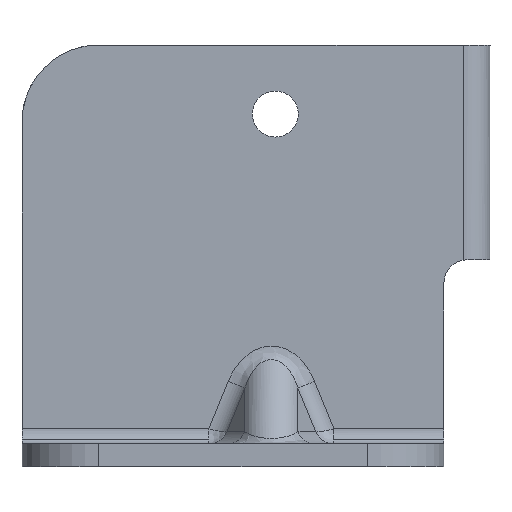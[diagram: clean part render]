
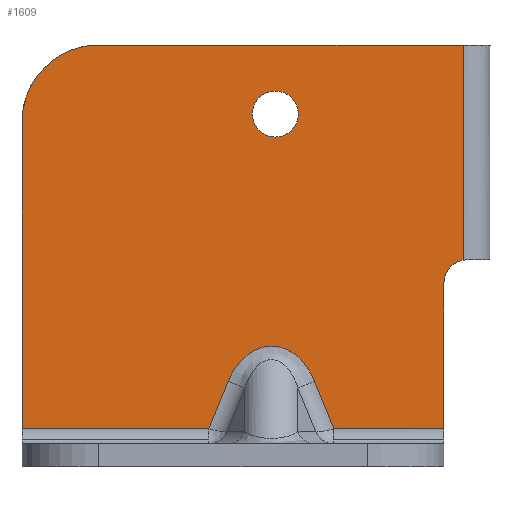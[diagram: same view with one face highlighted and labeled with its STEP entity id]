
A CAD part, left-side view. The second image highlights one B-rep face of the part: STEP entity #1609.
In plain terms, the highlighted planar face has unit normal (-1, 0, 0).
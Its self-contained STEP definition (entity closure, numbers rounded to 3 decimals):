
#1519=AXIS2_PLACEMENT_3D('Plane Axis2P3D',#1516,#1517,#1518) ;
#1528=AXIS2_PLACEMENT_3D('Circle Axis2P3D',#1526,#1527,$) ;
#1593=AXIS2_PLACEMENT_3D('Circle Axis2P3D',#1591,#1592,$) ;
#1602=AXIS2_PLACEMENT_3D('Circle Axis2P3D',#1600,#1601,$) ;
#332=CARTESIAN_POINT('Vertex',(1031.999,-706.333,25.)) ;
#1100=CARTESIAN_POINT('Vertex',(1031.999,-736.979,44.)) ;
#1103=CARTESIAN_POINT('Line Origine',(1031.999,-736.979,34.5)) ;
#1107=CARTESIAN_POINT('Vertex',(1031.999,-736.979,25.)) ;
#1225=CARTESIAN_POINT('Vertex',(1031.999,-722.626,25.)) ;
#1358=CARTESIAN_POINT('Vertex',(1031.999,-708.85,31.167)) ;
#1361=CARTESIAN_POINT('Line Origine',(1031.999,-716.539,50.)) ;
#1471=CARTESIAN_POINT('Vertex',(1031.999,-720.109,31.167)) ;
#1475=CARTESIAN_POINT('Control Point',(1031.999,-708.85,31.167)) ;
#1476=CARTESIAN_POINT('Control Point',(1031.999,-709.165,31.938)) ;
#1477=CARTESIAN_POINT('Control Point',(1031.999,-709.558,32.685)) ;
#1478=CARTESIAN_POINT('Control Point',(1031.999,-710.035,33.393)) ;
#1479=CARTESIAN_POINT('Control Point',(1031.999,-711.152,34.648)) ;
#1480=CARTESIAN_POINT('Control Point',(1031.999,-712.657,35.5)) ;
#1481=CARTESIAN_POINT('Control Point',(1031.999,-713.483,35.779)) ;
#1482=CARTESIAN_POINT('Control Point',(1031.999,-715.272,35.899)) ;
#1483=CARTESIAN_POINT('Control Point',(1031.999,-716.908,35.227)) ;
#1484=CARTESIAN_POINT('Control Point',(1031.999,-717.633,34.714)) ;
#1485=CARTESIAN_POINT('Control Point',(1031.999,-718.652,33.738)) ;
#1486=CARTESIAN_POINT('Control Point',(1031.999,-719.415,32.597)) ;
#1487=CARTESIAN_POINT('Control Point',(1031.999,-719.679,32.133)) ;
#1488=CARTESIAN_POINT('Control Point',(1031.999,-719.909,31.655)) ;
#1489=CARTESIAN_POINT('Control Point',(1031.999,-720.109,31.167)) ;
#1504=CARTESIAN_POINT('Control Point',(1031.999,-720.109,31.167)) ;
#1505=CARTESIAN_POINT('Control Point',(1031.999,-720.948,29.111)) ;
#1506=CARTESIAN_POINT('Control Point',(1031.999,-721.787,27.055)) ;
#1507=CARTESIAN_POINT('Control Point',(1031.999,-722.626,25.)) ;
#1516=CARTESIAN_POINT('Axis2P3D Location',(1031.999,-736.979,20.)) ;
#1521=CARTESIAN_POINT('Line Origine',(1031.999,-729.803,25.)) ;
#1526=CARTESIAN_POINT('Axis2P3D Location',(1031.999,-739.979,44.)) ;
#1530=CARTESIAN_POINT('Vertex',(1031.999,-739.479,46.958)) ;
#1533=CARTESIAN_POINT('Line Origine',(1031.999,-739.479,60.979)) ;
#1537=CARTESIAN_POINT('Vertex',(1031.999,-739.479,75.)) ;
#1540=CARTESIAN_POINT('Line Origine',(1031.999,-715.729,75.)) ;
#1544=CARTESIAN_POINT('Vertex',(1031.999,-691.979,75.)) ;
#1548=CARTESIAN_POINT('Control Point',(1031.999,-681.979,65.)) ;
#1549=CARTESIAN_POINT('Control Point',(1031.999,-681.979,65.929)) ;
#1550=CARTESIAN_POINT('Control Point',(1031.999,-682.087,66.858)) ;
#1551=CARTESIAN_POINT('Control Point',(1031.999,-682.303,67.771)) ;
#1552=CARTESIAN_POINT('Control Point',(1031.999,-682.943,69.529)) ;
#1553=CARTESIAN_POINT('Control Point',(1031.999,-683.969,71.094)) ;
#1554=CARTESIAN_POINT('Control Point',(1031.999,-684.572,71.814)) ;
#1555=CARTESIAN_POINT('Control Point',(1031.999,-685.932,73.099)) ;
#1556=CARTESIAN_POINT('Control Point',(1031.999,-687.55,74.038)) ;
#1557=CARTESIAN_POINT('Control Point',(1031.999,-688.411,74.411)) ;
#1558=CARTESIAN_POINT('Control Point',(1031.999,-689.647,74.783)) ;
#1559=CARTESIAN_POINT('Control Point',(1031.999,-690.919,74.953)) ;
#1560=CARTESIAN_POINT('Control Point',(1031.999,-691.273,74.984)) ;
#1561=CARTESIAN_POINT('Control Point',(1031.999,-691.626,75.)) ;
#1562=CARTESIAN_POINT('Control Point',(1031.999,-691.979,75.)) ;
#1563=CARTESIAN_POINT('Vertex',(1031.999,-681.979,65.)) ;
#1566=CARTESIAN_POINT('Line Origine',(1031.999,-681.979,45.)) ;
#1570=CARTESIAN_POINT('Vertex',(1031.999,-681.979,25.)) ;
#1573=CARTESIAN_POINT('Line Origine',(1031.999,-694.156,25.)) ;
#1591=CARTESIAN_POINT('Axis2P3D Location',(1031.999,-714.999,66.)) ;
#1595=CARTESIAN_POINT('Vertex',(1031.999,-711.999,66.)) ;
#1597=CARTESIAN_POINT('Vertex',(1031.999,-717.999,66.)) ;
#1600=CARTESIAN_POINT('Axis2P3D Location',(1031.999,-714.999,66.)) ;
#1104=DIRECTION('Vector Direction',(0.,0.,-1.)) ;
#1362=DIRECTION('Vector Direction',(0.,0.378,-0.926)) ;
#1517=DIRECTION('Axis2P3D Direction',(1.,0.,0.)) ;
#1518=DIRECTION('Axis2P3D XDirection',(0.,1.,0.)) ;
#1522=DIRECTION('Vector Direction',(0.,1.,0.)) ;
#1527=DIRECTION('Axis2P3D Direction',(1.,0.,0.)) ;
#1534=DIRECTION('Vector Direction',(0.,0.,1.)) ;
#1541=DIRECTION('Vector Direction',(0.,1.,0.)) ;
#1567=DIRECTION('Vector Direction',(0.,0.,1.)) ;
#1574=DIRECTION('Vector Direction',(0.,1.,0.)) ;
#1592=DIRECTION('Axis2P3D Direction',(1.,0.,0.)) ;
#1601=DIRECTION('Axis2P3D Direction',(1.,0.,0.)) ;
#1105=VECTOR('Line Direction',#1104,1.) ;
#1363=VECTOR('Line Direction',#1362,1.) ;
#1523=VECTOR('Line Direction',#1522,1.) ;
#1535=VECTOR('Line Direction',#1534,1.) ;
#1542=VECTOR('Line Direction',#1541,1.) ;
#1568=VECTOR('Line Direction',#1567,1.) ;
#1575=VECTOR('Line Direction',#1574,1.) ;
#1579=ORIENTED_EDGE('',*,*,#1525,.F.) ;
#1580=ORIENTED_EDGE('',*,*,#1109,.F.) ;
#1581=ORIENTED_EDGE('',*,*,#1532,.T.) ;
#1582=ORIENTED_EDGE('',*,*,#1539,.F.) ;
#1583=ORIENTED_EDGE('',*,*,#1546,.F.) ;
#1584=ORIENTED_EDGE('',*,*,#1565,.F.) ;
#1585=ORIENTED_EDGE('',*,*,#1572,.T.) ;
#1586=ORIENTED_EDGE('',*,*,#1577,.F.) ;
#1587=ORIENTED_EDGE('',*,*,#1365,.T.) ;
#1588=ORIENTED_EDGE('',*,*,#1490,.T.) ;
#1589=ORIENTED_EDGE('',*,*,#1508,.T.) ;
#1606=ORIENTED_EDGE('',*,*,#1599,.T.) ;
#1607=ORIENTED_EDGE('',*,*,#1604,.T.) ;
#1608=FACE_BOUND('',#1605,.T.) ;
#1609=ADVANCED_FACE('interfacebiao1.2\\\X2\51E04F554F53\X0\.79.1',(#1590,#1608),#1520,.F.) ;
#1474=B_SPLINE_CURVE_WITH_KNOTS('',5,(#1475,#1476,#1477,#1478,#1479,#1480,#1481,#1482,#1483,#1484,#1485,#1486,#1487,#1488,#1489),.UNSPECIFIED.,.F.,.U.,(6,3,3,3,6),(21.657,25.361,28.793,32.434,34.777),.UNSPECIFIED.) ;
#1503=B_SPLINE_CURVE_WITH_KNOTS('',3,(#1504,#1505,#1506,#1507),.UNSPECIFIED.,.F.,.U.,(4,4),(0.,9.42),.UNSPECIFIED.) ;
#1547=B_SPLINE_CURVE_WITH_KNOTS('',5,(#1548,#1549,#1550,#1551,#1552,#1553,#1554,#1555,#1556,#1557,#1558,#1559,#1560,#1561,#1562),.UNSPECIFIED.,.F.,.U.,(6,3,3,3,6),(0.,6.583,13.17,19.753,22.256),.UNSPECIFIED.) ;
#1529=CIRCLE('generated circle',#1528,3.) ;
#1594=CIRCLE('generated circle',#1593,3.) ;
#1603=CIRCLE('generated circle',#1602,3.) ;
#1109=EDGE_CURVE('',#1101,#1108,#1106,.T.) ;
#1365=EDGE_CURVE('',#333,#1359,#1364,.F.) ;
#1490=EDGE_CURVE('',#1359,#1472,#1474,.T.) ;
#1508=EDGE_CURVE('',#1472,#1226,#1503,.T.) ;
#1525=EDGE_CURVE('',#1108,#1226,#1524,.T.) ;
#1532=EDGE_CURVE('',#1101,#1531,#1529,.T.) ;
#1539=EDGE_CURVE('',#1538,#1531,#1536,.F.) ;
#1546=EDGE_CURVE('',#1545,#1538,#1543,.F.) ;
#1565=EDGE_CURVE('',#1564,#1545,#1547,.T.) ;
#1572=EDGE_CURVE('',#1564,#1571,#1569,.F.) ;
#1577=EDGE_CURVE('',#333,#1571,#1576,.T.) ;
#1599=EDGE_CURVE('',#1596,#1598,#1594,.T.) ;
#1604=EDGE_CURVE('',#1598,#1596,#1603,.T.) ;
#1578=EDGE_LOOP('',(#1579,#1580,#1581,#1582,#1583,#1584,#1585,#1586,#1587,#1588,#1589)) ;
#1605=EDGE_LOOP('',(#1606,#1607)) ;
#1590=FACE_OUTER_BOUND('',#1578,.T.) ;
#1106=LINE('Line',#1103,#1105) ;
#1364=LINE('Line',#1361,#1363) ;
#1524=LINE('Line',#1521,#1523) ;
#1536=LINE('Line',#1533,#1535) ;
#1543=LINE('Line',#1540,#1542) ;
#1569=LINE('Line',#1566,#1568) ;
#1576=LINE('Line',#1573,#1575) ;
#1520=PLANE('Plane',#1519) ;
#333=VERTEX_POINT('',#332) ;
#1101=VERTEX_POINT('',#1100) ;
#1108=VERTEX_POINT('',#1107) ;
#1226=VERTEX_POINT('',#1225) ;
#1359=VERTEX_POINT('',#1358) ;
#1472=VERTEX_POINT('',#1471) ;
#1531=VERTEX_POINT('',#1530) ;
#1538=VERTEX_POINT('',#1537) ;
#1545=VERTEX_POINT('',#1544) ;
#1564=VERTEX_POINT('',#1563) ;
#1571=VERTEX_POINT('',#1570) ;
#1596=VERTEX_POINT('',#1595) ;
#1598=VERTEX_POINT('',#1597) ;
